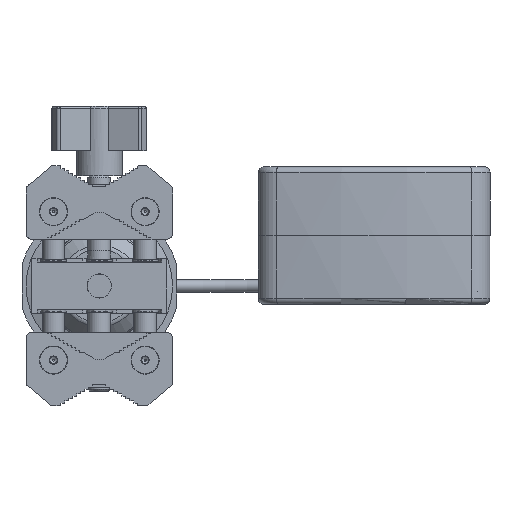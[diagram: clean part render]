
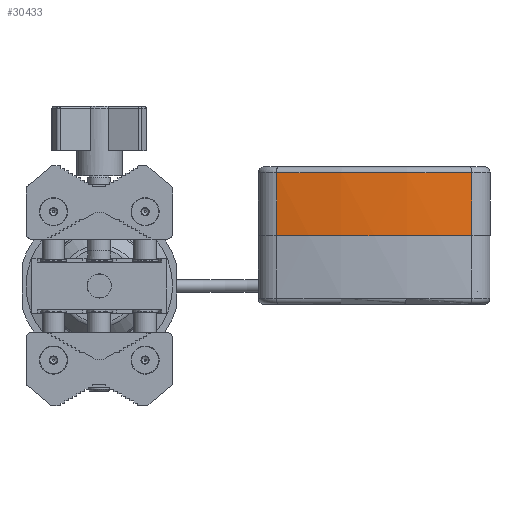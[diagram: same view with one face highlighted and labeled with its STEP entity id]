
A CAD part, front view. The second image highlights one B-rep face of the part: STEP entity #30433.
In plain terms, the highlighted cylindrical face has radius 139.7 mm (diameter 279.4 mm), a partial arc.
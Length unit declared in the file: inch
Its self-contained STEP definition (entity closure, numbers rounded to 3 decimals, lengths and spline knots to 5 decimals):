
#29271=CARTESIAN_POINT('',(120.80015,64.4945,-86.6313));
#29272=VERTEX_POINT('',#29271);
#29383=CARTESIAN_POINT('',(119.73707,64.59827,-86.6313));
#29384=VERTEX_POINT('',#29383);
#29385=CARTESIAN_POINT('',(120.8004,69.9945,-86.6313));
#29386=DIRECTION('',(0.0,0.0,-1.0));
#29387=DIRECTION('',(-1.0,0.0,0.0));
#29388=AXIS2_PLACEMENT_3D('',#29385,#29386,#29387);
#29389=CIRCLE('',#29388,5.5);
#29390=EDGE_CURVE('',#29272,#29384,#29389,.T.);
#29876=CARTESIAN_POINT('',(121.86374,64.59827,-86.6313));
#29877=VERTEX_POINT('',#29876);
#29885=CARTESIAN_POINT('',(120.8004,69.9945,-86.6313));
#29886=DIRECTION('',(0.0,0.0,-1.0));
#29887=DIRECTION('',(-1.0,0.0,0.0));
#29888=AXIS2_PLACEMENT_3D('',#29885,#29886,#29887);
#29889=CIRCLE('',#29888,5.5);
#29890=EDGE_CURVE('',#29877,#29272,#29889,.T.);
#30401=CARTESIAN_POINT('',(120.8004,69.9945,-86.6313));
#30402=DIRECTION('',(0.,0.,1.0));
#30403=DIRECTION('',(-1.0,0.0,0.0));
#30404=AXIS2_PLACEMENT_3D('',#30401,#30402,#30403);
#30405=CYLINDRICAL_SURFACE('',#30404,5.5);
#30406=CARTESIAN_POINT('',(119.73707,64.59827,-85.9443));
#30407=VERTEX_POINT('',#30406);
#30408=CARTESIAN_POINT('',(121.86374,64.59827,-85.9443));
#30409=VERTEX_POINT('',#30408);
#30410=CARTESIAN_POINT('',(120.8004,69.9945,-85.9443));
#30411=DIRECTION('',(0.0,0.0,1.0));
#30412=DIRECTION('',(0.0,-1.0,0.0));
#30413=AXIS2_PLACEMENT_3D('',#30410,#30411,#30412);
#30414=CIRCLE('',#30413,5.5);
#30415=EDGE_CURVE('',#30407,#30409,#30414,.T.);
#30416=ORIENTED_EDGE('',*,*,#30415,.F.);
#30417=CARTESIAN_POINT('',(119.73707,64.59827,-86.6313));
#30418=DIRECTION('',(0.0,0.0,1.0));
#30419=VECTOR('',#30418,0.687);
#30420=LINE('',#30417,#30419);
#30421=EDGE_CURVE('',#29384,#30407,#30420,.T.);
#30422=ORIENTED_EDGE('',*,*,#30421,.F.);
#30423=ORIENTED_EDGE('',*,*,#29390,.F.);
#30424=ORIENTED_EDGE('',*,*,#29890,.F.);
#30425=CARTESIAN_POINT('',(121.86374,64.59827,-86.6313));
#30426=DIRECTION('',(0.0,0.0,1.0));
#30427=VECTOR('',#30426,0.687);
#30428=LINE('',#30425,#30427);
#30429=EDGE_CURVE('',#29877,#30409,#30428,.T.);
#30430=ORIENTED_EDGE('',*,*,#30429,.T.);
#30431=EDGE_LOOP('',(#30416,#30422,#30423,#30424,#30430));
#30432=FACE_OUTER_BOUND('',#30431,.T.);
#30433=ADVANCED_FACE('',(#30432),#30405,.T.);
